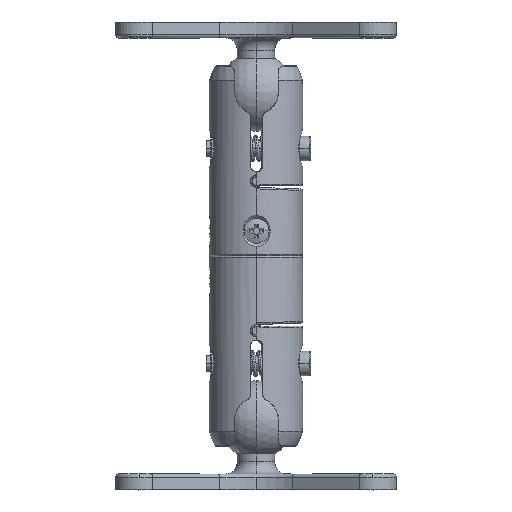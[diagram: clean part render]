
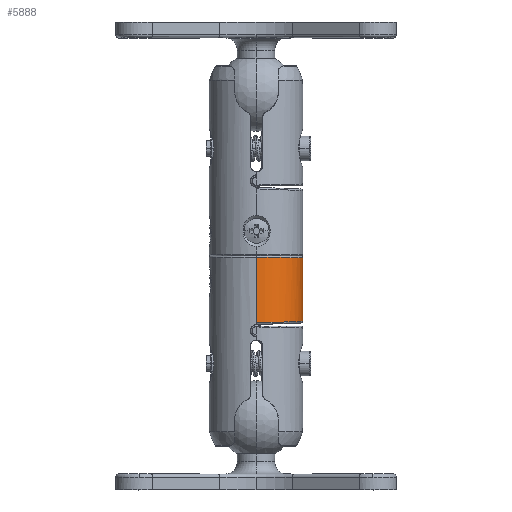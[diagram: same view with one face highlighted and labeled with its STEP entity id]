
A CAD part, top view. The second image highlights one B-rep face of the part: STEP entity #5888.
In plain terms, the highlighted cylindrical face has radius 15 mm (diameter 30 mm), a partial arc.
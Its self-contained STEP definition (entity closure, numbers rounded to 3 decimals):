
#817 = EDGE_LOOP ( 'NONE', ( #6317, #6318, #6316, #6319, #6320, #6321, #6322, #6323 ) ) ;
#1898 = VERTEX_POINT ( 'NONE', #9607 ) ;
#1899 = VERTEX_POINT ( 'NONE', #9608 ) ;
#1902 = VERTEX_POINT ( 'NONE', #9611 ) ;
#1903 = VERTEX_POINT ( 'NONE', #9612 ) ;
#1932 = VERTEX_POINT ( 'NONE', #9641 ) ;
#1933 = VERTEX_POINT ( 'NONE', #9642 ) ;
#1944 = VERTEX_POINT ( 'NONE', #9653 ) ;
#1945 = VERTEX_POINT ( 'NONE', #9654 ) ;
#5888 = ADVANCED_FACE ( 'NONE', ( #16215 ), #16216, .T. ) ;
#5975 = EDGE_CURVE ( 'NONE', #1899, #1898, #13140, .T. ) ;
#5979 = EDGE_CURVE ( 'NONE', #1903, #1902, #14788, .T. ) ;
#6009 = EDGE_CURVE ( 'NONE', #1933, #1932, #16586, .T. ) ;
#6028 = EDGE_CURVE ( 'NONE', #1898, #1944, #13145, .T. ) ;
#6029 = EDGE_CURVE ( 'NONE', #1944, #1945, #16296, .T. ) ;
#6030 = EDGE_CURVE ( 'NONE', #1945, #1933, #17728, .T. ) ;
#6031 = EDGE_CURVE ( 'NONE', #1932, #1903, #16297, .T. ) ;
#6032 = EDGE_CURVE ( 'NONE', #1899, #1902, #16298, .T. ) ;
#6316 = ORIENTED_EDGE ( 'NONE', *, *, #6029, .T. ) ;
#6317 = ORIENTED_EDGE ( 'NONE', *, *, #5975, .T. ) ;
#6318 = ORIENTED_EDGE ( 'NONE', *, *, #6028, .T. ) ;
#6319 = ORIENTED_EDGE ( 'NONE', *, *, #6030, .T. ) ;
#6320 = ORIENTED_EDGE ( 'NONE', *, *, #6009, .T. ) ;
#6321 = ORIENTED_EDGE ( 'NONE', *, *, #6031, .T. ) ;
#6322 = ORIENTED_EDGE ( 'NONE', *, *, #5979, .T. ) ;
#6323 = ORIENTED_EDGE ( 'NONE', *, *, #6032, .F. ) ;
#9607 = CARTESIAN_POINT ( 'NONE',  ( 15., 20.992, 0. ) ) ;
#9608 = CARTESIAN_POINT ( 'NONE',  ( 0., 21.499, -15. ) ) ;
#9611 = CARTESIAN_POINT ( 'NONE',  ( 0., 0.5, -15. ) ) ;
#9612 = CARTESIAN_POINT ( 'NONE',  ( 0., 0.5, 15. ) ) ;
#9641 = CARTESIAN_POINT ( 'NONE',  ( 0., 3., 15. ) ) ;
#9642 = CARTESIAN_POINT ( 'NONE',  ( 4.354, 8., 14.354 ) ) ;
#9653 = CARTESIAN_POINT ( 'NONE',  ( 0., 21.499, 15. ) ) ;
#9654 = CARTESIAN_POINT ( 'NONE',  ( 0., 13., 15. ) ) ;
#13140 =( BOUNDED_CURVE ( )  B_SPLINE_CURVE ( 3, ( #17166, #17167, #17168, #17169 ),
 .UNSPECIFIED., .F., .T. ) 
 B_SPLINE_CURVE_WITH_KNOTS ( ( 4, 4 ),
 ( 4.712, 6.283 ),
 .UNSPECIFIED. ) 
 CURVE ( )  GEOMETRIC_REPRESENTATION_ITEM ( )  RATIONAL_B_SPLINE_CURVE ( ( 1., 0.805, 0.805, 1. ) ) 
 REPRESENTATION_ITEM ( '' )  );
#13145 =( BOUNDED_CURVE ( )  B_SPLINE_CURVE ( 3, ( #17548, #17549, #17550, #17551 ),
 .UNSPECIFIED., .F., .T. ) 
 B_SPLINE_CURVE_WITH_KNOTS ( ( 4, 4 ),
 ( 0., 1.571 ),
 .UNSPECIFIED. ) 
 CURVE ( )  GEOMETRIC_REPRESENTATION_ITEM ( )  RATIONAL_B_SPLINE_CURVE ( ( 1., 0.805, 0.805, 1. ) ) 
 REPRESENTATION_ITEM ( '' )  );
#14690 = AXIS2_PLACEMENT_3D ( 'NONE', #16768, #16769, #16770 ) ;
#14788 = CIRCLE ( 'NONE', #14789, 15. ) ;
#14789 = AXIS2_PLACEMENT_3D ( 'NONE', #17182, #17183, #17184 ) ;
#14841 = VECTOR ( 'NONE', #17553, 1000. ) ;
#14842 = VECTOR ( 'NONE', #17575, 1000. ) ;
#14844 = VECTOR ( 'NONE', #17577, 1000. ) ;
#16215 = FACE_OUTER_BOUND ( 'NONE', #817, .T. ) ;
#16216 = CYLINDRICAL_SURFACE ( 'NONE', #14690, 15. ) ;
#16296 = LINE ( 'NONE', #17552, #14841 ) ;
#16297 = LINE ( 'NONE', #17574, #14842 ) ;
#16298 = LINE ( 'NONE', #17576, #14844 ) ;
#16586 = B_SPLINE_CURVE_WITH_KNOTS ( 'NONE', 3,
 ( #17356, #17357, #17358, #17359, #17360, #17361, #17362, #17363, #17364, #17365, #17366, #17367, #17368, #17369, #17370, #17371, #17372, #17373, #17374, #17375 ),
 .UNSPECIFIED., .F., .F.,
 ( 4, 2, 2, 2, 2, 2, 2, 2, 2, 4 ),
 ( 0.018, 0.019, 0.02, 0.021, 0.021, 0.022, 0.023, 0.023, 0.024, 0.025 ),
 .UNSPECIFIED. ) ;
#16768 = CARTESIAN_POINT ( 'NONE',  ( 0., 61., 0. ) ) ;
#16769 = DIRECTION ( 'NONE',  ( 0., -1., 0. ) ) ;
#16770 = DIRECTION ( 'NONE',  ( 0., 0., -1. ) ) ;
#17166 = CARTESIAN_POINT ( 'NONE',  ( 0., 21.499, -15. ) ) ;
#17167 = CARTESIAN_POINT ( 'NONE',  ( 8.787, 21.202, -15. ) ) ;
#17168 = CARTESIAN_POINT ( 'NONE',  ( 15., 20.992, -8.787 ) ) ;
#17169 = CARTESIAN_POINT ( 'NONE',  ( 15., 20.992, 0. ) ) ;
#17182 = CARTESIAN_POINT ( 'NONE',  ( 0., 0.5, 0. ) ) ;
#17183 = DIRECTION ( 'NONE',  ( 0., 1., 0. ) ) ;
#17184 = DIRECTION ( 'NONE',  ( 0., 0., 1. ) ) ;
#17356 = CARTESIAN_POINT ( 'NONE',  ( 4.354, 8., 14.354 ) ) ;
#17357 = CARTESIAN_POINT ( 'NONE',  ( 4.354, 7.691, 14.354 ) ) ;
#17358 = CARTESIAN_POINT ( 'NONE',  ( 4.329, 7.386, 14.362 ) ) ;
#17359 = CARTESIAN_POINT ( 'NONE',  ( 4.23, 6.782, 14.391 ) ) ;
#17360 = CARTESIAN_POINT ( 'NONE',  ( 4.155, 6.48, 14.413 ) ) ;
#17361 = CARTESIAN_POINT ( 'NONE',  ( 3.956, 5.899, 14.469 ) ) ;
#17362 = CARTESIAN_POINT ( 'NONE',  ( 3.834, 5.62, 14.503 ) ) ;
#17363 = CARTESIAN_POINT ( 'NONE',  ( 3.542, 5.087, 14.577 ) ) ;
#17364 = CARTESIAN_POINT ( 'NONE',  ( 3.371, 4.829, 14.618 ) ) ;
#17365 = CARTESIAN_POINT ( 'NONE',  ( 2.985, 4.355, 14.701 ) ) ;
#17366 = CARTESIAN_POINT ( 'NONE',  ( 2.773, 4.14, 14.743 ) ) ;
#17367 = CARTESIAN_POINT ( 'NONE',  ( 2.423, 3.849, 14.804 ) ) ;
#17368 = CARTESIAN_POINT ( 'NONE',  ( 2.301, 3.758, 14.823 ) ) ;
#17369 = CARTESIAN_POINT ( 'NONE',  ( 2.045, 3.588, 14.861 ) ) ;
#17370 = CARTESIAN_POINT ( 'NONE',  ( 1.911, 3.509, 14.878 ) ) ;
#17371 = CARTESIAN_POINT ( 'NONE',  ( 1.502, 3.298, 14.927 ) ) ;
#17372 = CARTESIAN_POINT ( 'NONE',  ( 1.216, 3.188, 14.954 ) ) ;
#17373 = CARTESIAN_POINT ( 'NONE',  ( 0.614, 3.038, 14.99 ) ) ;
#17374 = CARTESIAN_POINT ( 'NONE',  ( 0.307, 3., 15. ) ) ;
#17375 = CARTESIAN_POINT ( 'NONE',  ( 0., 3., 15. ) ) ;
#17548 = CARTESIAN_POINT ( 'NONE',  ( 15., 20.992, 0. ) ) ;
#17549 = CARTESIAN_POINT ( 'NONE',  ( 15., 20.992, 8.787 ) ) ;
#17550 = CARTESIAN_POINT ( 'NONE',  ( 8.787, 21.202, 15. ) ) ;
#17551 = CARTESIAN_POINT ( 'NONE',  ( 0., 21.499, 15. ) ) ;
#17552 = CARTESIAN_POINT ( 'NONE',  ( 0., 61., 15. ) ) ;
#17553 = DIRECTION ( 'NONE',  ( 0., -1., 0. ) ) ;
#17554 = CARTESIAN_POINT ( 'NONE',  ( 0., 13., 15. ) ) ;
#17555 = CARTESIAN_POINT ( 'NONE',  ( 0.31, 13., 15. ) ) ;
#17556 = CARTESIAN_POINT ( 'NONE',  ( 0.614, 12.962, 14.99 ) ) ;
#17557 = CARTESIAN_POINT ( 'NONE',  ( 1.061, 12.851, 14.963 ) ) ;
#17558 = CARTESIAN_POINT ( 'NONE',  ( 1.209, 12.804, 14.952 ) ) ;
#17559 = CARTESIAN_POINT ( 'NONE',  ( 1.497, 12.695, 14.926 ) ) ;
#17560 = CARTESIAN_POINT ( 'NONE',  ( 1.637, 12.633, 14.911 ) ) ;
#17561 = CARTESIAN_POINT ( 'NONE',  ( 2.044, 12.423, 14.863 ) ) ;
#17562 = CARTESIAN_POINT ( 'NONE',  ( 2.301, 12.251, 14.824 ) ) ;
#17563 = CARTESIAN_POINT ( 'NONE',  ( 2.772, 11.862, 14.744 ) ) ;
#17564 = CARTESIAN_POINT ( 'NONE',  ( 2.985, 11.645, 14.701 ) ) ;
#17565 = CARTESIAN_POINT ( 'NONE',  ( 3.371, 11.17, 14.618 ) ) ;
#17566 = CARTESIAN_POINT ( 'NONE',  ( 3.542, 10.915, 14.577 ) ) ;
#17567 = CARTESIAN_POINT ( 'NONE',  ( 3.834, 10.381, 14.503 ) ) ;
#17568 = CARTESIAN_POINT ( 'NONE',  ( 3.957, 10.099, 14.469 ) ) ;
#17569 = CARTESIAN_POINT ( 'NONE',  ( 4.156, 9.517, 14.413 ) ) ;
#17570 = CARTESIAN_POINT ( 'NONE',  ( 4.229, 9.221, 14.391 ) ) ;
#17571 = CARTESIAN_POINT ( 'NONE',  ( 4.329, 8.617, 14.362 ) ) ;
#17572 = CARTESIAN_POINT ( 'NONE',  ( 4.354, 8.308, 14.354 ) ) ;
#17573 = CARTESIAN_POINT ( 'NONE',  ( 4.354, 8., 14.354 ) ) ;
#17574 = CARTESIAN_POINT ( 'NONE',  ( 0., 61., 15. ) ) ;
#17575 = DIRECTION ( 'NONE',  ( 0., -1., 0. ) ) ;
#17576 = CARTESIAN_POINT ( 'NONE',  ( 0., 61., -15. ) ) ;
#17577 = DIRECTION ( 'NONE',  ( 0., -1., 0. ) ) ;
#17728 = B_SPLINE_CURVE_WITH_KNOTS ( 'NONE', 3,
 ( #17554, #17555, #17556, #17557, #17558, #17559, #17560, #17561, #17562, #17563, #17564, #17565, #17566, #17567, #17568, #17569, #17570, #17571, #17572, #17573 ),
 .UNSPECIFIED., .F., .F.,
 ( 4, 2, 2, 2, 2, 2, 2, 2, 2, 4 ),
 ( 0.01, 0.011, 0.012, 0.012, 0.013, 0.014, 0.015, 0.016, 0.017, 0.018 ),
 .UNSPECIFIED. ) ;
